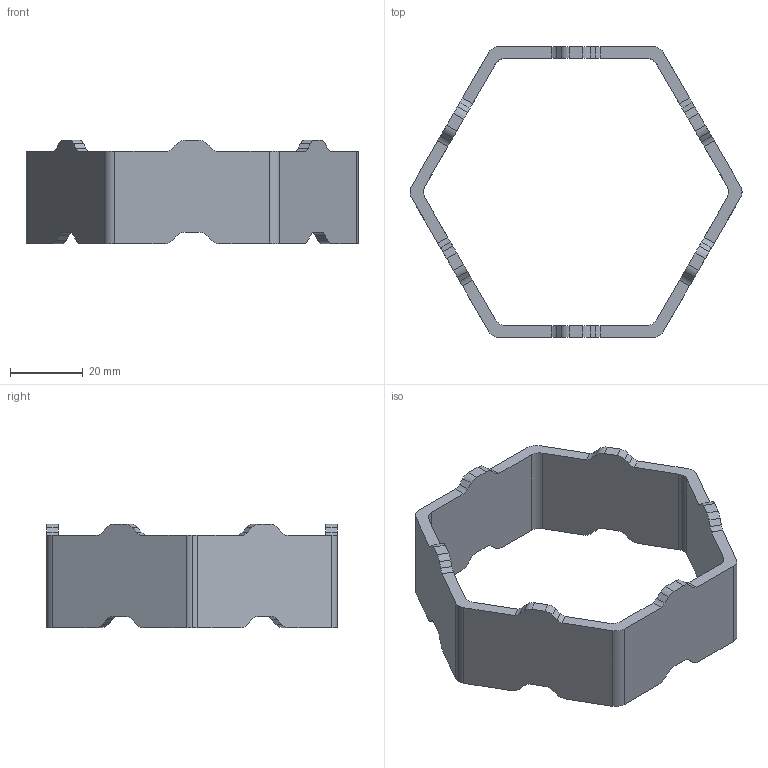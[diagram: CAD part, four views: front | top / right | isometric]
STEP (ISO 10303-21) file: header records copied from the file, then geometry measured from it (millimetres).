
FILE_DESCRIPTION(/* description */ ('STEP AP242 Edition 2','CAx-IF Rec.Pracs.---Representation and Presentation of Product Manufacturing Information (PMI)---4.0---2014-10-13','CAx-IF Rec.Pracs.---3D Tessellated Geometry---0.4---2014-09-14','2;1','CAx-IF Rec.Pracs.---User Defined Attributes---1.5---2016-08-15'),/* implementation_level */ '2;1');
FILE_NAME(/* name */ 'Game Pieces - Comb',/* time_stamp */ '2026-06-03T09:59:57Z',/* author */ (''),/* organization */ (''),/* preprocessor_version */ 'ST-DEVELOPER v20',/* originating_system */ 'ONSHAPE BY PTC INC, 1.215',/* authorisation */ ' ');
FILE_SCHEMA (('AP242_MANAGED_MODEL_BASED_3D_ENGINEERING_MIM_LF { 1 0 10303 442 3 1 4 }'));
Length unit declared in the file: metre
Products named in the file (1): Comb
Bounding box: 91.11 x 79.76 x 28.45 mm (x, y, z)
Volume: 21354.7 mm3; surface area: 15111.2 mm2
Topology: 1 solids, 1 shells, 122 faces, 370 edges, 248 vertices
Faces by surface type: cylinder 62, plane 60
Entity records: 4220 total; most frequent: DIRECTION 744, CARTESIAN_POINT 741, ORIENTED_EDGE 740, EDGE_CURVE 370, AXIS2_PLACEMENT_3D 251, VERTEX_POINT 248, LINE 242, VECTOR 242
